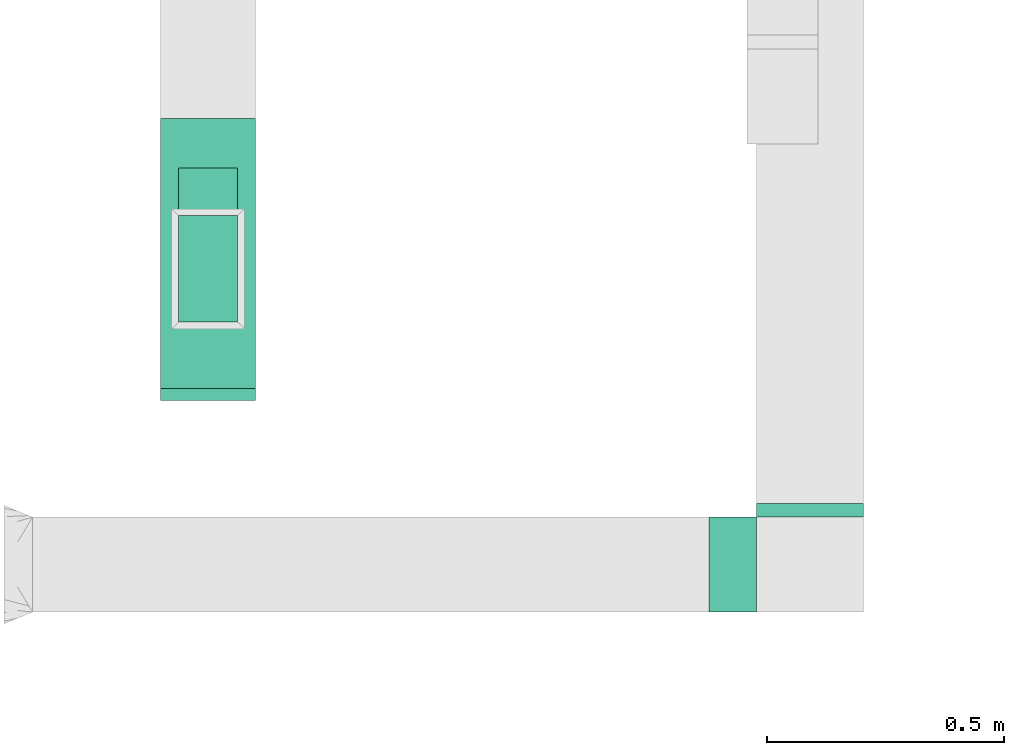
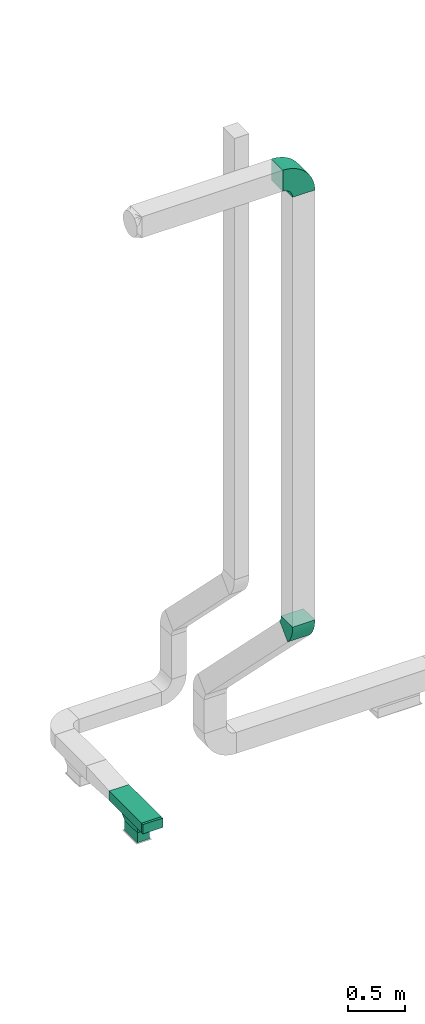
# One storey, part 8 of 22: 4 flow fittings, 2 flow segments.
"""IFC2X3 building model written with IfcOpenShell, lengths in millimetres."""

from ifc_helpers import new_model, entity, si_unit, converted_unit, derived_unit, direction, frame, frame_2d, origin, origin_2d_with_axis, place, context, subcontext, project, spatial, polyline, circle_curve, parameter, trimmed, segment, composite_curve, rectangle, outline, extrude, source, transform, mapped, material, type_object, type_shapes, element, save


model = new_model("IFC2X3")

# Units and contexts
model_context = context("Model", 3, precision=0.01, world=origin(), true_north=direction((6.123233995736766e-17, 1.0)))
body_context = subcontext(model_context, "Body", "Model", "MODEL_VIEW")
ifc_project = project(units=[si_unit("LENGTHUNIT", "METRE", prefix="MILLI"), converted_unit("PLANEANGLEUNIT", "DEGREE", entity("IfcPlaneAngleMeasure", 0.017453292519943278), si_unit("PLANEANGLEUNIT", "RADIAN"), dimensions=[0, 0, 0, 0, 0, 0, 0]), si_unit("AREAUNIT", "SQUARE_METRE"), derived_unit("THERMALTRANSMITTANCEUNIT", [(si_unit("MASSUNIT", "GRAM", prefix="KILO"), 1), (si_unit("THERMODYNAMICTEMPERATUREUNIT", "KELVIN"), -1), (si_unit("TIMEUNIT", "SECOND"), -3)])], contexts=[model_context])

# Site, building, storey
site_placement = place(None, origin())
site = spatial("IfcSite", under=ifc_project, at=site_placement, Name="Default", CompositionType="ELEMENT")
building_placement = place(site_placement, origin())
building = spatial("IfcBuilding", under=site, at=building_placement, Name="Praça Pedro II, 1301 - Centro (Sul), Teresina - PI, 64001-100", CompositionType="ELEMENT")
storey_placement = place(building_placement, frame((0.0, 0.0, 320.0)))
storey = spatial("IfcBuildingStorey", under=building, at=storey_placement, Name="TÉRREO +0.32m", CompositionType="ELEMENT", Elevation=319.99999999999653)

# Flow segments
duct_segment_type = type_object("IfcDuctSegmentType", Name="Duto retangular:Raios cotovelos / torneiras", PredefinedType="NOTDEFINED")
flow_segment_1_placement = place(storey_placement, origin())
element("IfcFlowSegment", 1, at=flow_segment_1_placement, inside=storey, type_object=duct_segment_type, Name="Duto retangular:Raios cotovelos / torneiras", ObjectType="Duto retangular:Raios cotovelos / torneiras", context=body_context, shape_type="SweptSolid", body=[
    extrude(rectangle(XDim=568.9003796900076, YDim=199.99999999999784, at=frame_2d((-4.320099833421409e-12, 0.0), x_axis=(1.0, 0.0))), frame((20379.809130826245, -52948.95091635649, 2350.0), z_axis=(0.0, 0.0, 1.0), x_axis=(0.0, 1.0, 0.0)), (0.0, 0.0, 1.0), 100.0),
])
flow_segment_2_placement = place(storey_placement, origin())
element("IfcFlowSegment", 2, at=flow_segment_2_placement, inside=storey, type_object=duct_segment_type, Name="Duto retangular:Raios cotovelos / torneiras", ObjectType="Duto retangular:Raios cotovelos / torneiras", context=body_context, shape_type="SweptSolid", body=[
    extrude(rectangle(XDim=124.99999999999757, YDim=225.00000000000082, at=origin_2d_with_axis()), frame((20379.80913082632, -52980.86941726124, 2142.0)), (0.0, 0.0, 1.0), 107.99999999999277),
])

# Flow fittings
ifc_material = material(Name="<Unnamed>")
duct_fitting_type_1 = type_object("IfcDuctFittingType", Name="M_Tampa retangular:Padrão", PredefinedType="NOTDEFINED", material=ifc_material)
shared_shape_1 = source(origin(), body_context, "Body", "SweptSolid", [
    extrude(rectangle(XDim=24.999999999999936, YDim=200.00000000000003, at=frame_2d((-8.881784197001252e-16, 0.0), x_axis=(1.0, 0.0))), frame((12.500000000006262, 0.0, -50.0)), (0.0, 0.0, 1.0), 100.0),
])
type_shapes(duct_fitting_type_1, [shared_shape_1])
flow_fitting_1_placement = place(storey_placement, frame((20379.809130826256, -53233.40110620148, 2400.0), z_axis=(0.0, 0.0, 1.0), x_axis=(0.0, -1.0, 0.0)))
element("IfcFlowFitting", 3, at=flow_fitting_1_placement, inside=storey, type_object=duct_fitting_type_1, material=ifc_material, Name="M_Tampa retangular:Padrão", ObjectType="M_Tampa retangular:Padrão", context=body_context, shape_type="MappedRepresentation", body=[
    mapped(shared_shape_1, transform((0.0, 0.0, 0.0), scale=1.0)),
])
duct_fitting_type_2 = type_object("IfcDuctFittingType", Name="M_Rectangular Tap - Beveled:Standard", PredefinedType="NOTDEFINED", material=ifc_material)
shared_shape_2 = source(origin(), body_context, "Body", "SweptSolid", [
    extrude(outline(polyline([(-62.43839999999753, -175.0), (43.65760000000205, -175.0), (43.65760000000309, 150.0), (37.56160000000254, 150.0), (-62.43839999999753, 50.0), (-62.43839999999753, -175.0)])), frame((37.56160000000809, -62.50000000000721, -62.49999999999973), z_axis=(0.0, 0.0, 1.0), x_axis=(-1.0, 0.0, 0.0)), (0.0, 0.0, 1.0), 124.99999999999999),
])
type_shapes(duct_fitting_type_2, [shared_shape_2])
flow_fitting_2_placement = place(storey_placement, frame((20379.80913082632, -52980.86941726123, 2350.0), z_axis=(-1.0, 0.0, 0.0), x_axis=(0.0, 0.0, -1.0)))
element("IfcFlowFitting", 4, at=flow_fitting_2_placement, inside=storey, type_object=duct_fitting_type_2, material=ifc_material, Name="M_Rectangular Tap - Beveled:Standard", ObjectType="M_Rectangular Tap - Beveled:Standard", context=body_context, shape_type="MappedRepresentation", body=[
    mapped(shared_shape_2, transform((0.0, 0.0, 0.0), scale=1.0)),
])
duct_fitting_type_3 = type_object("IfcDuctFittingType", Name="BTS vanes:1 Splitter Vanes", PredefinedType="NOTDEFINED", material=ifc_material)
shared_shape_3 = source(origin(), body_context, "Body", "SweptSolid", [
    extrude(outline(composite_curve([segment(polyline([(-218.74999999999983, -106.24999999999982), (6.25000000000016, -106.24999999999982)]), True, "CONTINUOUS"), segment(trimmed(circle_curve(frame_2d((106.25000000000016, -106.24999999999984), x_axis=(0.0, 1.0)), 99.99999999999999), [parameter(0.0)], [parameter(89.99999999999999)], True, "PARAMETER"), False, "CONTINUOUS"), segment(polyline([(106.25000000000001, -6.249999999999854), (106.24999999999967, 218.75000000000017)]), True, "CONTINUOUS"), segment(trimmed(circle_curve(frame_2d((106.25000000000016, -106.24999999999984), x_axis=(0.0, 1.0)), 325.0), [parameter(0.0)], [parameter(89.99999999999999)], True, "PARAMETER"), True, "CONTINUOUS")], self_intersect=False)), frame((-106.2499999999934, 106.24999999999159, -100.0), z_axis=(0.0, 0.0, 1.0), x_axis=(-1.0, 0.0, 0.0)), (0.0, 0.0, 1.0), 200.0),
    extrude(outline(composite_curve([segment(polyline([(-77.63157894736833, -59.210526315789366), (-40.78947368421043, -59.21052631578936)]), True, "CONTINUOUS"), segment(trimmed(circle_curve(frame_2d((59.21052631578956, -59.21052631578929), x_axis=(0.0, 1.0)), 99.99999999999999), [parameter(0.0)], [parameter(90.00000000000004)], True, "PARAMETER"), False, "CONTINUOUS"), segment(polyline([(59.21052631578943, 40.7894736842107), (59.210526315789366, 77.63157894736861)]), True, "CONTINUOUS"), segment(trimmed(circle_curve(frame_2d((59.21052631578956, -59.21052631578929), x_axis=(0.0, 1.0)), 136.8421052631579), [parameter(0.0)], [parameter(89.99999999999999)], True, "PARAMETER"), True, "CONTINUOUS")], self_intersect=False)), frame((-153.28947368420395, 153.2894736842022, -100.0), z_axis=(0.0, 0.0, 1.0), x_axis=(-1.0, 0.0, 0.0)), (0.0, 0.0, 1.0), 200.0),
])
type_shapes(duct_fitting_type_3, [shared_shape_3])
flow_fitting_3_placement = place(storey_placement, frame((21648.660162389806, -53604.37227675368, 9200.0), z_axis=(0.0, -1.0, 0.0), x_axis=(0.0, 0.0, 1.0)))
element("IfcFlowFitting", 5, at=flow_fitting_3_placement, inside=storey, type_object=duct_fitting_type_3, material=ifc_material, Name="BTS vanes:1 Splitter Vanes", ObjectType="BTS vanes:1 Splitter Vanes", context=body_context, shape_type="MappedRepresentation", body=[
    mapped(shared_shape_3, transform((0.0, 0.0, 0.0), scale=1.0)),
])
duct_fitting_type_4 = type_object("IfcDuctFittingType", Name="BTS vanes:1 Splitter Vanes", PredefinedType="NOTDEFINED", material=ifc_material)
shared_shape_4 = source(origin(), body_context, "Body", "SweptSolid", [
    extrude(outline(composite_curve([segment(polyline([(-129.28932188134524, -70.7106781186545), (70.71067811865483, -70.71067811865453)]), True, "CONTINUOUS"), segment(trimmed(circle_curve(frame_2d((170.7106781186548, -70.71067811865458), x_axis=(-0.7071067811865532, 0.7071067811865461)), 99.99999999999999), [parameter(0.0)], [parameter(44.99999999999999)], True, "PARAMETER"), False, "CONTINUOUS"), segment(polyline([(100.0, 0.0), (-41.42135623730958, 141.42135623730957)]), True, "CONTINUOUS"), segment(trimmed(circle_curve(frame_2d((170.7106781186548, -70.71067811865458), x_axis=(-0.7071067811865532, 0.7071067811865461)), 300.0), [parameter(0.0)], [parameter(44.99999999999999)], True, "PARAMETER"), True, "CONTINUOUS")], self_intersect=False)), frame((-12.132034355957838, 29.289321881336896, -112.50000000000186), z_axis=(0.0, 0.0, 1.0), x_axis=(-0.7071067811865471, 0.7071067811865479, 0.0)), (0.0, 0.0, 1.0), 225.00000000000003),
    extrude(outline(composite_curve([segment(polyline([(-35.763414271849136, -41.86816467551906), (1.078690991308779, -41.86816467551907)]), True, "CONTINUOUS"), segment(trimmed(circle_curve(frame_2d((101.07869099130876, -41.86816467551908), x_axis=(-0.707106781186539, 0.7071067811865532)), 99.99999999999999), [parameter(0.0)], [parameter(44.99999999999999)], True, "PARAMETER"), False, "CONTINUOUS"), segment(polyline([(30.36801287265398, 28.842513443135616), (4.3167104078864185, 54.89381590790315)]), True, "CONTINUOUS"), segment(trimmed(circle_curve(frame_2d((101.07869099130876, -41.86816467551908), x_axis=(-0.707106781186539, 0.7071067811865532)), 136.84210526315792), [parameter(0.0)], [parameter(44.99999999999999)], True, "PARAMETER"), True, "CONTINUOUS")], self_intersect=False)), frame((-40.97454779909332, 98.92130900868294, -112.50000000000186), z_axis=(0.0, 0.0, 1.0), x_axis=(-0.7071067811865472, 0.7071067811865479, 0.0)), (0.0, 0.0, 1.0), 225.00000000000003),
])
type_shapes(duct_fitting_type_4, [shared_shape_4])
flow_fitting_4_placement = place(storey_placement, frame((21648.660162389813, -53604.37227675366, 4308.629579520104), z_axis=(-1.0, 0.0, 0.0), x_axis=(0.0, -0.7071067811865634, 0.7071067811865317)))
element("IfcFlowFitting", 6, at=flow_fitting_4_placement, inside=storey, type_object=duct_fitting_type_4, material=ifc_material, Name="BTS vanes:1 Splitter Vanes", ObjectType="BTS vanes:1 Splitter Vanes", context=body_context, shape_type="MappedRepresentation", body=[
    mapped(shared_shape_4, transform((0.0, 0.0, 0.0), scale=1.0)),
])

save(model, "model.ifc")
